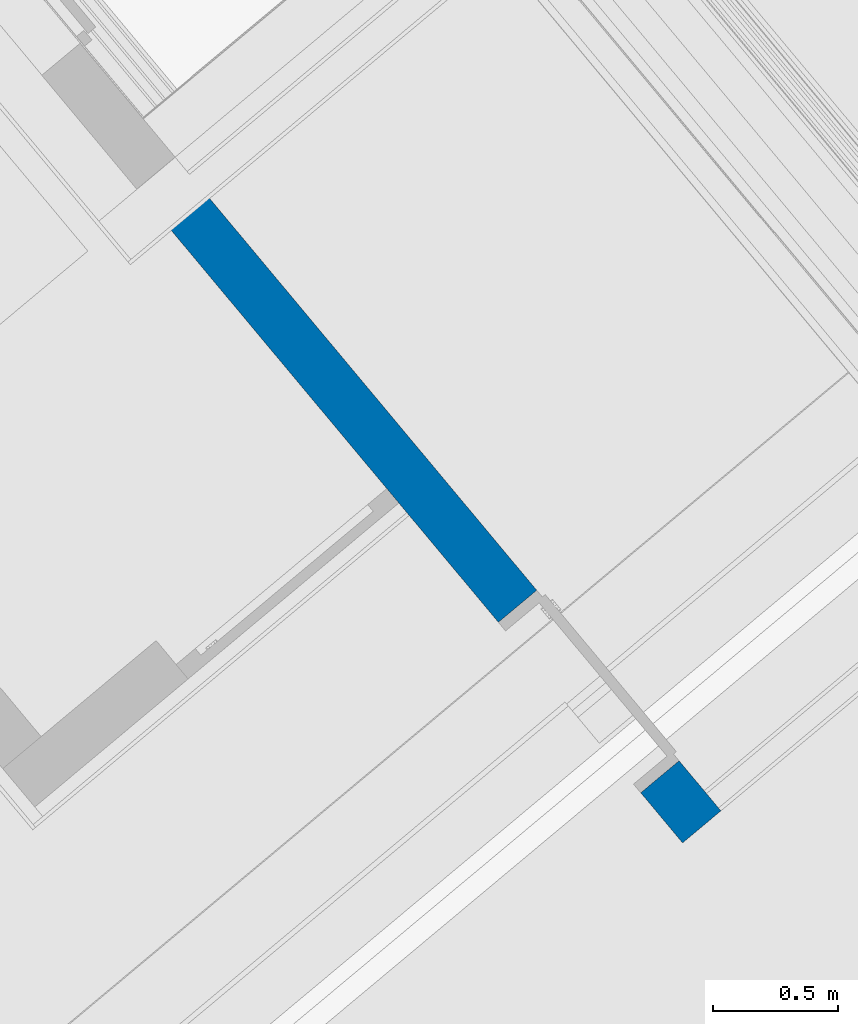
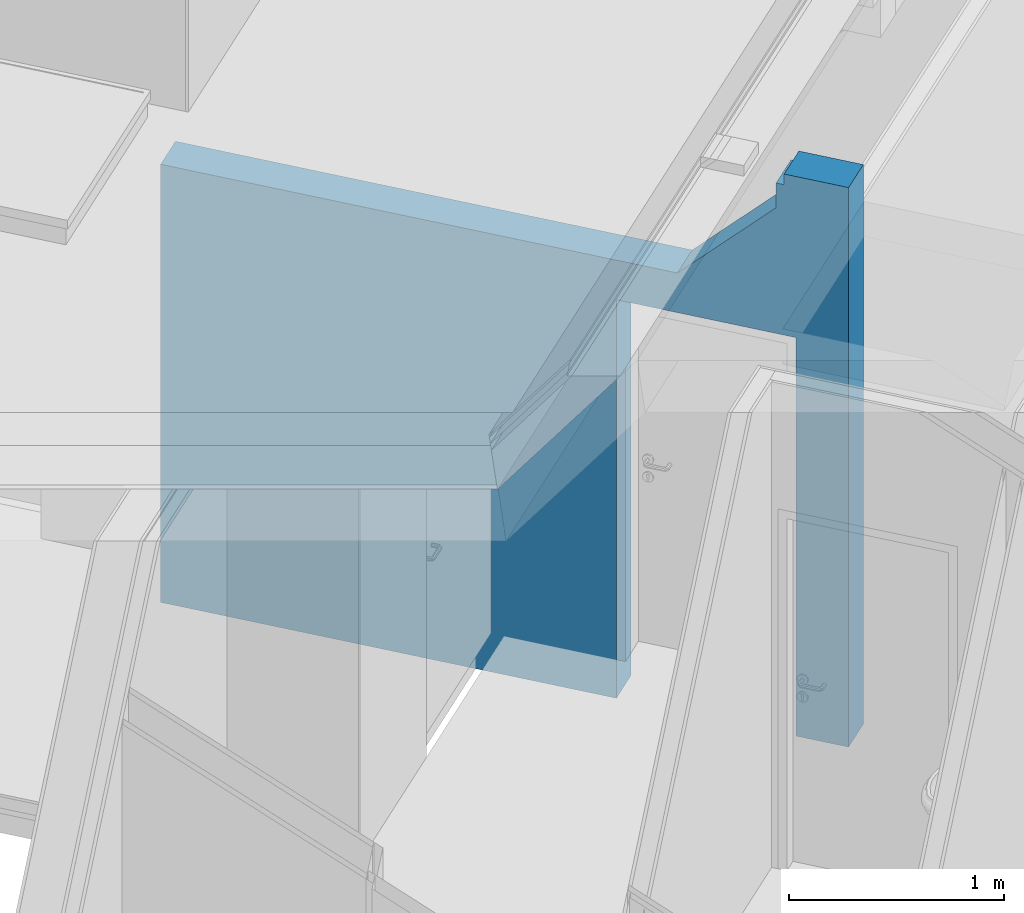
# One storey, part 6 of 50: 1 wall, 1 opening.
"""IFC4 building model written with IfcOpenShell, lengths in metres."""

from ifc_helpers import new_model, entity, si_unit, converted_unit, derived_unit, direction, frame, origin_with_axes, place, context, subcontext, project, spatial, polygons, material, type_object, element, save


model = new_model("IFC4")

# Units and contexts
model_context = context("Model", 3, precision=1e-05, world=origin_with_axes(), true_north=direction((0.0, 1.0)))
body_context = subcontext(model_context, "Body", "Model", "MODEL_VIEW")
ifc_project = project(units=[si_unit("LENGTHUNIT", "METRE"), si_unit("AREAUNIT", "SQUARE_METRE"), si_unit("VOLUMEUNIT", "CUBIC_METRE"), converted_unit("PLANEANGLEUNIT", "DEGREE", entity("IfcPlaneAngleMeasure", 0.0174532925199), si_unit("PLANEANGLEUNIT", "RADIAN"), dimensions=[0, 0, 0, 0, 0, 0, 0]), converted_unit("TIMEUNIT", "Year", entity("IfcTimeMeasure", 31556926.0), si_unit("TIMEUNIT", "SECOND"), dimensions=[0, 0, 1, 0, 0, 0, 0]), si_unit("MASSUNIT", "GRAM", prefix="KILO"), si_unit("THERMODYNAMICTEMPERATUREUNIT", "DEGREE_CELSIUS"), si_unit("LUMINOUSINTENSITYUNIT", "LUMEN"), si_unit("ENERGYUNIT", "JOULE", prefix="MEGA"), derived_unit("THERMALCONDUCTANCEUNIT", [(si_unit("POWERUNIT", "WATT"), 1), (si_unit("LENGTHUNIT", "METRE"), -1), (si_unit("THERMODYNAMICTEMPERATUREUNIT", "KELVIN"), -1)]), derived_unit("SPECIFICHEATCAPACITYUNIT", [(si_unit("ENERGYUNIT", "JOULE"), 1), (si_unit("MASSUNIT", "GRAM", prefix="KILO"), -1), (si_unit("THERMODYNAMICTEMPERATUREUNIT", "KELVIN"), -1)]), derived_unit("MASSDENSITYUNIT", [(si_unit("MASSUNIT", "GRAM", prefix="KILO"), 1), (si_unit("VOLUMEUNIT", "CUBIC_METRE"), -1)])], contexts=[model_context])

# Site, building, storey, space
site_placement = place(None, frame((-0.00153261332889, -0.00661245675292, 0.0), z_axis=(0.0, 0.0, 1.0), x_axis=(1.0, 0.0, 0.0)))
site = spatial("IfcSite", under=ifc_project, at=site_placement, Name="Gelände", CompositionType="ELEMENT")
building_placement = place(site_placement, origin_with_axes())
building = spatial("IfcBuilding", under=site, at=building_placement, Name="Gebäude", CompositionType="ELEMENT")
storey_placement = place(building_placement, frame((0.0, 0.0, 8.66), z_axis=(0.0, 0.0, 1.0), x_axis=(1.0, 0.0, 0.0)))
storey = spatial("IfcBuildingStorey", under=building, at=storey_placement, Name="DG2", CompositionType="ELEMENT", Elevation=8.66)
space_placement = place(storey_placement, frame((-0.969275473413, 24.9166386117, 0.22), z_axis=(0.0, 0.0, 1.0), x_axis=(0.641209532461, -0.767365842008, 0.0)))
space = spatial("IfcSpace", under=storey, at=space_placement, CompositionType="ELEMENT", PredefinedType="NOTDEFINED")

# Wall, opening
ifc_material = material(Name="Stahlbeton Wand")
wall_type = type_object("IfcWallType", Name="Stahlbeton Wand 200", PredefinedType="NOTDEFINED")
wall_placement = place(space_placement, frame((5.20764278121, 1.70360173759, -0.22), z_axis=(0.0, 0.0, 1.0), x_axis=(-0.999999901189, 0.000444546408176, 0.0)))
wall = element("IfcWall", 1, at=wall_placement, inside=space, type_object=wall_type, material=ifc_material, Name="Wand-003", PredefinedType="NOTDEFINED", context=body_context, shape_type="Tessellation", body=[
    polygons([(1.15149667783, 0.0, 2.265), (1.15149667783, 0.0, 0.22), (1.15149663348, 0.0, 0.0), (3.41230812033, 0.0, 0.0), (3.41230812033, 0.0, 2.49), (0.849434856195, 0.0, 2.49), (0.849434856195, 0.0, 2.48997370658), (0.359408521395, 0.0, 2.98), (0.359408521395, 0.0, 3.12), (0.320185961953, 0.0, 3.12), (0.320185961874, 0.0, 3.18), (0.0, 0.0, 3.18), (0.0, 0.0, 0.0), (0.261496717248, -7.8576302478e-06, 0.0), (0.261496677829, -7.8576302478e-06, 0.22), (0.261496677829, 0.0, 2.265), (1.15149667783, 0.2, 2.265), (1.15149667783, 0.2, 0.22), (1.15149663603, 0.2, 0.0), (3.41230812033, 0.2, 0.0), (3.41230816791, 0.20000000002, 2.49), (0.849352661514, 0.2, 2.49), (0.849352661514, 0.2, 2.48997370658), (0.359326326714, 0.2, 2.98), (0.359326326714, 0.2, 3.12), (0.32009705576, 0.2, 3.12), (0.320097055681, 0.2, 3.18), (0.0, 0.2, 3.18), (0.0, 0.2, 0.0), (0.26149671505, 0.2, 0.0), (0.261496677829, 0.2, 0.22), (0.261496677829, 0.2, 2.265)], [[[1, 2, 3, 4, 5, 6, 7, 8, 9, 10, 11, 12, 13, 14, 15, 16]], [[2, 1, 17, 18]], [[2, 18, 19, 3]], [[20, 4, 3, 19]], [[5, 4, 20, 21]], [[6, 5, 21, 22]], [[22, 23, 7, 6]], [[23, 24, 8, 7]], [[8, 24, 25, 9]], [[26, 10, 9, 25]], [[11, 10, 26, 27]], [[27, 28, 12, 11]], [[28, 29, 13, 12]], [[13, 29, 30, 14]], [[31, 15, 14, 30]], [[16, 15, 31, 32]], [[1, 16, 32, 17]], [[32, 31, 30, 29, 28, 27, 26, 25, 24, 23, 22, 21, 20, 19, 18, 17]]], closed=True),
])
opening_placement = place(wall_placement, frame((0.706496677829, 0.0, 0.22), z_axis=(0.0, 0.0, 1.0), x_axis=(1.0, 0.0, 0.0)))
element("IfcOpeningElement", 2, at=opening_placement, cuts=wall, Name="Tür-018", context=body_context, identifier="Reference", shape_type="Tessellation", body=[
    polygons([(0.445, 1.87972968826, 2.045), (0.445, 1.87972968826, -0.22), (-0.445, 1.87972968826, -0.22), (-0.445, 1.87972968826, 2.045), (0.445, -1.67972968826, 2.045), (0.445, -1.67972968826, -0.22), (-0.445, -1.67972968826, -0.22), (-0.445, -1.67972968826, 2.045)], [[[1, 2, 3, 4]], [[5, 6, 2, 1]], [[6, 7, 3, 2]], [[7, 8, 4, 3]], [[8, 5, 1, 4]], [[7, 6, 5, 8]]], closed=True),
])

save(model, "model.ifc")
